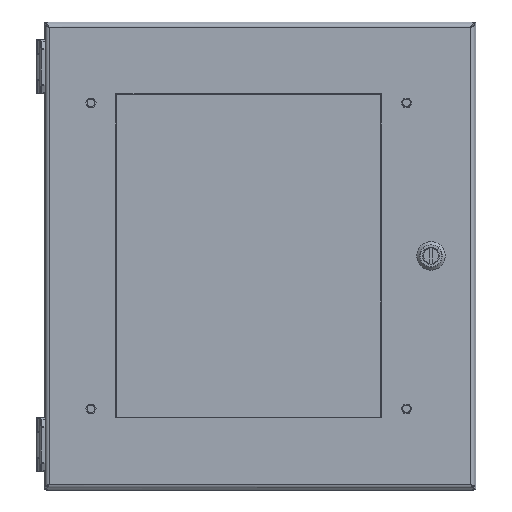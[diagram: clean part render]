
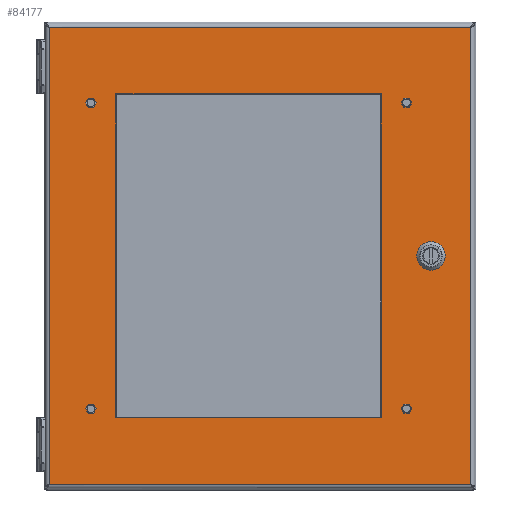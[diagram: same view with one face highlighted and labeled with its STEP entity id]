
A CAD part, top view. The second image highlights one B-rep face of the part: STEP entity #84177.
In plain terms, the highlighted planar face has unit normal (0, 0, 1).
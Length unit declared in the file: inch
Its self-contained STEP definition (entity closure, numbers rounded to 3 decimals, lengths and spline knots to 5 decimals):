
#81894=DIRECTION('',(0.707,0.707,0.));
#81895=VECTOR('',#81894,0.30984);
#81896=CARTESIAN_POINT('',(4.44447,0.08845,0.81));
#81897=LINE('',#81896,#81895);
#81901=CARTESIAN_POINT('',(4.752,0.,0.81));
#81902=DIRECTION('',(0.,0.,1.));
#81903=DIRECTION('',(-0.961,0.276,0.));
#81904=AXIS2_PLACEMENT_3D('',#81901,#81902,#81903);
#81909=DIRECTION('',(-0.707,0.707,0.));
#81910=VECTOR('',#81909,0.30984);
#81911=CARTESIAN_POINT('',(4.66355,-0.30753,0.81));
#81912=LINE('',#81911,#81910);
#81916=CARTESIAN_POINT('',(4.752,0.,0.81));
#81917=DIRECTION('',(0.,0.,1.));
#81918=DIRECTION('',(-0.276,-0.961,0.));
#81919=AXIS2_PLACEMENT_3D('',#81916,#81917,#81918);
#81924=DIRECTION('',(-0.707,-0.707,0.));
#81925=VECTOR('',#81924,0.30984);
#81926=CARTESIAN_POINT('',(5.05953,-0.08845,0.81));
#81927=LINE('',#81926,#81925);
#81931=CARTESIAN_POINT('',(4.752,0.,0.81));
#81932=DIRECTION('',(0.,0.,1.));
#81933=DIRECTION('',(0.961,-0.276,0.));
#81934=AXIS2_PLACEMENT_3D('',#81931,#81932,#81933);
#81939=DIRECTION('',(0.707,-0.707,0.));
#81940=VECTOR('',#81939,0.30984);
#81941=CARTESIAN_POINT('',(4.84045,0.30753,0.81));
#81942=LINE('',#81941,#81940);
#81946=CARTESIAN_POINT('',(4.752,0.,0.81));
#81947=DIRECTION('',(0.,0.,1.));
#81948=DIRECTION('',(0.276,0.961,0.));
#81949=AXIS2_PLACEMENT_3D('',#81946,#81947,#81948);
#81954=DIRECTION('',(1.,0.,0.));
#81955=VECTOR('',#81954,7.375);
#81956=CARTESIAN_POINT('',(-4.00005,4.5,0.81));
#81957=LINE('',#81956,#81955);
#81961=DIRECTION('',(0.,1.,0.));
#81962=VECTOR('',#81961,9.);
#81963=CARTESIAN_POINT('',(-4.00005,-4.5,0.81));
#81964=LINE('',#81963,#81962);
#81968=DIRECTION('',(-1.,0.,0.));
#81969=VECTOR('',#81968,7.375);
#81970=CARTESIAN_POINT('',(3.37495,-4.5,0.81));
#81971=LINE('',#81970,#81969);
#81975=DIRECTION('',(0.,-1.,0.));
#81976=VECTOR('',#81975,9.);
#81977=CARTESIAN_POINT('',(3.37495,4.5,0.81));
#81978=LINE('',#81977,#81976);
#81982=CARTESIAN_POINT('',(-4.69755,4.25,0.81));
#81983=DIRECTION('',(0.,0.,1.));
#81984=DIRECTION('',(-1.,0.,0.));
#81985=AXIS2_PLACEMENT_3D('',#81982,#81983,#81984);
#81990=CARTESIAN_POINT('',(-4.69755,4.25,0.81));
#81991=DIRECTION('',(0.,0.,1.));
#81992=DIRECTION('',(1.,0.,0.));
#81993=AXIS2_PLACEMENT_3D('',#81990,#81991,#81992);
#81998=CARTESIAN_POINT('',(-4.69755,-4.25,0.81));
#81999=DIRECTION('',(0.,0.,1.));
#82000=DIRECTION('',(-1.,0.,0.));
#82001=AXIS2_PLACEMENT_3D('',#81998,#81999,#82000);
#82006=CARTESIAN_POINT('',(-4.69755,-4.25,0.81));
#82007=DIRECTION('',(0.,0.,1.));
#82008=DIRECTION('',(1.,0.,0.));
#82009=AXIS2_PLACEMENT_3D('',#82006,#82007,#82008);
#82014=CARTESIAN_POINT('',(4.07245,-4.25,0.81));
#82015=DIRECTION('',(0.,0.,1.));
#82016=DIRECTION('',(-1.,0.,0.));
#82017=AXIS2_PLACEMENT_3D('',#82014,#82015,#82016);
#82022=CARTESIAN_POINT('',(4.07245,-4.25,0.81));
#82023=DIRECTION('',(0.,0.,1.));
#82024=DIRECTION('',(1.,0.,0.));
#82025=AXIS2_PLACEMENT_3D('',#82022,#82023,#82024);
#82030=CARTESIAN_POINT('',(4.07245,4.25,0.81));
#82031=DIRECTION('',(0.,0.,1.));
#82032=DIRECTION('',(-1.,0.,0.));
#82033=AXIS2_PLACEMENT_3D('',#82030,#82031,#82032);
#82038=CARTESIAN_POINT('',(4.07245,4.25,0.81));
#82039=DIRECTION('',(0.,0.,1.));
#82040=DIRECTION('',(1.,0.,0.));
#82041=AXIS2_PLACEMENT_3D('',#82038,#82039,#82040);
#82046=DIRECTION('',(1.,0.,0.));
#82047=VECTOR('',#82046,11.7);
#82048=CARTESIAN_POINT('',(-5.85,-6.35,0.81));
#82049=LINE('',#82048,#82047);
#82138=DIRECTION('',(0.,1.,0.));
#82139=VECTOR('',#82138,12.7);
#82140=CARTESIAN_POINT('',(5.85,-6.35,0.81));
#82141=LINE('',#82140,#82139);
#82188=DIRECTION('',(-1.,0.,0.));
#82189=VECTOR('',#82188,11.7);
#82190=CARTESIAN_POINT('',(5.85,6.35,0.81));
#82191=LINE('',#82190,#82189);
#82287=DIRECTION('',(0.,-1.,0.));
#82288=VECTOR('',#82287,12.7);
#82289=CARTESIAN_POINT('',(-5.85,6.35,0.81));
#82290=LINE('',#82289,#82288);
#83822=CARTESIAN_POINT('',(-5.85,6.35,0.81));
#83823=CARTESIAN_POINT('',(-5.85,-6.35,0.81));
#83824=VERTEX_POINT('',#83822);
#83825=VERTEX_POINT('',#83823);
#83826=CARTESIAN_POINT('',(5.85,-6.35,0.81));
#83827=CARTESIAN_POINT('',(5.85,6.35,0.81));
#83828=VERTEX_POINT('',#83826);
#83829=VERTEX_POINT('',#83827);
#83954=CARTESIAN_POINT('',(4.44447,0.08845,0.81));
#83955=CARTESIAN_POINT('',(4.66355,0.30753,0.81));
#83956=VERTEX_POINT('',#83954);
#83957=VERTEX_POINT('',#83955);
#83958=CARTESIAN_POINT('',(4.84045,0.30753,0.81));
#83959=VERTEX_POINT('',#83958);
#83960=CARTESIAN_POINT('',(5.05953,0.08845,0.81));
#83961=VERTEX_POINT('',#83960);
#83962=CARTESIAN_POINT('',(5.05953,-0.08845,0.81));
#83963=VERTEX_POINT('',#83962);
#83964=CARTESIAN_POINT('',(4.84045,-0.30753,0.81));
#83965=VERTEX_POINT('',#83964);
#83966=CARTESIAN_POINT('',(4.66355,-0.30753,0.81));
#83967=VERTEX_POINT('',#83966);
#83968=CARTESIAN_POINT('',(4.44447,-0.08845,0.81));
#83969=VERTEX_POINT('',#83968);
#83994=CARTESIAN_POINT('',(-4.00005,4.5,0.81));
#83995=CARTESIAN_POINT('',(3.37495,4.5,0.81));
#83996=VERTEX_POINT('',#83994);
#83997=VERTEX_POINT('',#83995);
#83998=CARTESIAN_POINT('',(3.37495,-4.5,0.81));
#83999=VERTEX_POINT('',#83998);
#84000=CARTESIAN_POINT('',(-4.00005,-4.5,0.81));
#84001=VERTEX_POINT('',#84000);
#84010=CARTESIAN_POINT('',(-4.8041,4.25,0.81));
#84011=CARTESIAN_POINT('',(-4.591,4.25,0.81));
#84012=VERTEX_POINT('',#84010);
#84013=VERTEX_POINT('',#84011);
#84014=CARTESIAN_POINT('',(-4.8041,-4.25,0.81));
#84015=CARTESIAN_POINT('',(-4.591,-4.25,0.81));
#84016=VERTEX_POINT('',#84014);
#84017=VERTEX_POINT('',#84015);
#84018=CARTESIAN_POINT('',(3.9659,-4.25,0.81));
#84019=CARTESIAN_POINT('',(4.179,-4.25,0.81));
#84020=VERTEX_POINT('',#84018);
#84021=VERTEX_POINT('',#84019);
#84022=CARTESIAN_POINT('',(3.9659,4.25,0.81));
#84023=CARTESIAN_POINT('',(4.179,4.25,0.81));
#84024=VERTEX_POINT('',#84022);
#84025=VERTEX_POINT('',#84023);
#84110=CARTESIAN_POINT('',(0.,0.,0.81));
#84111=DIRECTION('',(0.,0.,1.));
#84112=DIRECTION('',(1.,0.,0.));
#84113=AXIS2_PLACEMENT_3D('',#84110,#84111,#84112);
#84114=PLANE('',#84113);
#84116=ORIENTED_EDGE('',*,*,#84115,.F.);
#84118=ORIENTED_EDGE('',*,*,#84117,.F.);
#84120=ORIENTED_EDGE('',*,*,#84119,.F.);
#84122=ORIENTED_EDGE('',*,*,#84121,.F.);
#84123=EDGE_LOOP('',(#84116,#84118,#84120,#84122));
#84124=FACE_OUTER_BOUND('',#84123,.F.);
#84126=ORIENTED_EDGE('',*,*,#84125,.F.);
#84128=ORIENTED_EDGE('',*,*,#84127,.T.);
#84130=ORIENTED_EDGE('',*,*,#84129,.F.);
#84132=ORIENTED_EDGE('',*,*,#84131,.T.);
#84134=ORIENTED_EDGE('',*,*,#84133,.F.);
#84136=ORIENTED_EDGE('',*,*,#84135,.T.);
#84138=ORIENTED_EDGE('',*,*,#84137,.F.);
#84140=ORIENTED_EDGE('',*,*,#84139,.T.);
#84141=EDGE_LOOP('',(#84126,#84128,#84130,#84132,#84134,#84136,#84138,#84140));
#84142=FACE_BOUND('',#84141,.F.);
#84144=ORIENTED_EDGE('',*,*,#84143,.F.);
#84146=ORIENTED_EDGE('',*,*,#84145,.F.);
#84148=ORIENTED_EDGE('',*,*,#84147,.F.);
#84150=ORIENTED_EDGE('',*,*,#84149,.F.);
#84151=EDGE_LOOP('',(#84144,#84146,#84148,#84150));
#84152=FACE_BOUND('',#84151,.F.);
#84154=ORIENTED_EDGE('',*,*,#84153,.T.);
#84156=ORIENTED_EDGE('',*,*,#84155,.T.);
#84157=EDGE_LOOP('',(#84154,#84156));
#84158=FACE_BOUND('',#84157,.F.);
#84160=ORIENTED_EDGE('',*,*,#84159,.T.);
#84162=ORIENTED_EDGE('',*,*,#84161,.T.);
#84163=EDGE_LOOP('',(#84160,#84162));
#84164=FACE_BOUND('',#84163,.F.);
#84166=ORIENTED_EDGE('',*,*,#84165,.T.);
#84168=ORIENTED_EDGE('',*,*,#84167,.T.);
#84169=EDGE_LOOP('',(#84166,#84168));
#84170=FACE_BOUND('',#84169,.F.);
#84172=ORIENTED_EDGE('',*,*,#84171,.T.);
#84174=ORIENTED_EDGE('',*,*,#84173,.T.);
#84175=EDGE_LOOP('',(#84172,#84174));
#84176=FACE_BOUND('',#84175,.F.);
#81905=CIRCLE('',#81904,0.32);
#81920=CIRCLE('',#81919,0.32);
#81935=CIRCLE('',#81934,0.32);
#81950=CIRCLE('',#81949,0.32);
#81986=CIRCLE('',#81985,0.10655);
#81994=CIRCLE('',#81993,0.10655);
#82002=CIRCLE('',#82001,0.10655);
#82010=CIRCLE('',#82009,0.10655);
#82018=CIRCLE('',#82017,0.10655);
#82026=CIRCLE('',#82025,0.10655);
#82034=CIRCLE('',#82033,0.10655);
#82042=CIRCLE('',#82041,0.10655);
#84115=EDGE_CURVE('',#83825,#83828,#82049,.T.);
#84117=EDGE_CURVE('',#83824,#83825,#82290,.T.);
#84119=EDGE_CURVE('',#83829,#83824,#82191,.T.);
#84121=EDGE_CURVE('',#83828,#83829,#82141,.T.);
#84125=EDGE_CURVE('',#83956,#83957,#81897,.T.);
#84127=EDGE_CURVE('',#83956,#83969,#81905,.T.);
#84129=EDGE_CURVE('',#83967,#83969,#81912,.T.);
#84131=EDGE_CURVE('',#83967,#83965,#81920,.T.);
#84133=EDGE_CURVE('',#83963,#83965,#81927,.T.);
#84135=EDGE_CURVE('',#83963,#83961,#81935,.T.);
#84137=EDGE_CURVE('',#83959,#83961,#81942,.T.);
#84139=EDGE_CURVE('',#83959,#83957,#81950,.T.);
#84143=EDGE_CURVE('',#83996,#83997,#81957,.T.);
#84145=EDGE_CURVE('',#84001,#83996,#81964,.T.);
#84147=EDGE_CURVE('',#83999,#84001,#81971,.T.);
#84149=EDGE_CURVE('',#83997,#83999,#81978,.T.);
#84153=EDGE_CURVE('',#84012,#84013,#81986,.T.);
#84155=EDGE_CURVE('',#84013,#84012,#81994,.T.);
#84159=EDGE_CURVE('',#84016,#84017,#82002,.T.);
#84161=EDGE_CURVE('',#84017,#84016,#82010,.T.);
#84165=EDGE_CURVE('',#84020,#84021,#82018,.T.);
#84167=EDGE_CURVE('',#84021,#84020,#82026,.T.);
#84171=EDGE_CURVE('',#84024,#84025,#82034,.T.);
#84173=EDGE_CURVE('',#84025,#84024,#82042,.T.);
#84177=ADVANCED_FACE('',(#84124,#84142,#84152,#84158,#84164,#84170,#84176),
#84114,.T.);
